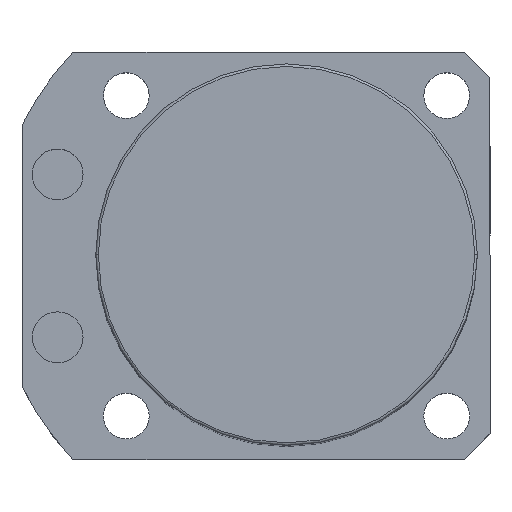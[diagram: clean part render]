
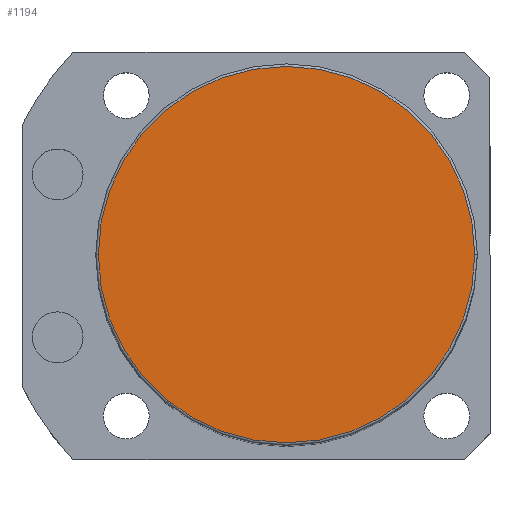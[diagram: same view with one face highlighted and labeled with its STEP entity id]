
A CAD part, top view. The second image highlights one B-rep face of the part: STEP entity #1194.
In plain terms, the highlighted planar face has unit normal (0, 0, 1).
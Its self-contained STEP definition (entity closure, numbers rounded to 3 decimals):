
#119 = AXIS2_PLACEMENT_3D ( 'NONE', #1858, #534, #1304 ) ;
#213 = DIRECTION ( 'NONE',  ( 0., 0., 1. ) ) ;
#246 = PLANE ( 'NONE',  #2056 ) ;
#466 = FACE_OUTER_BOUND ( 'NONE', #540, .T. ) ;
#502 = CIRCLE ( 'NONE', #2224, 37. ) ;
#534 = DIRECTION ( 'NONE',  ( 0., 0., 1. ) ) ;
#540 = EDGE_LOOP ( 'NONE', ( #1823, #1939 ) ) ;
#597 = CARTESIAN_POINT ( 'NONE',  ( 0., 0., 155.5 ) ) ;
#786 = VERTEX_POINT ( 'NONE', #2360 ) ;
#926 = CARTESIAN_POINT ( 'NONE',  ( 37., 0., 155.5 ) ) ;
#1125 = CIRCLE ( 'NONE', #119, 37. ) ;
#1194 = ADVANCED_FACE ( 'NONE', ( #466 ), #246, .T. ) ;
#1304 = DIRECTION ( 'NONE',  ( 1., 0., 0. ) ) ;
#1527 = DIRECTION ( 'NONE',  ( 1., 0., 0. ) ) ;
#1756 = CARTESIAN_POINT ( 'NONE',  ( 0., 0., 155.5 ) ) ;
#1823 = ORIENTED_EDGE ( 'NONE', *, *, #2117, .T. ) ;
#1858 = CARTESIAN_POINT ( 'NONE',  ( 0., 0., 155.5 ) ) ;
#1939 = ORIENTED_EDGE ( 'NONE', *, *, #2252, .T. ) ;
#1952 = DIRECTION ( 'NONE',  ( 0., 0., 1. ) ) ;
#2056 = AXIS2_PLACEMENT_3D ( 'NONE', #1756, #1952, #2335 ) ;
#2099 = VERTEX_POINT ( 'NONE', #926 ) ;
#2117 = EDGE_CURVE ( 'NONE', #2099, #786, #1125, .T. ) ;
#2224 = AXIS2_PLACEMENT_3D ( 'NONE', #597, #213, #1527 ) ;
#2252 = EDGE_CURVE ( 'NONE', #786, #2099, #502, .T. ) ;
#2335 = DIRECTION ( 'NONE',  ( 1., 0., 0. ) ) ;
#2360 = CARTESIAN_POINT ( 'NONE',  ( -37., 0., 155.5 ) ) ;
